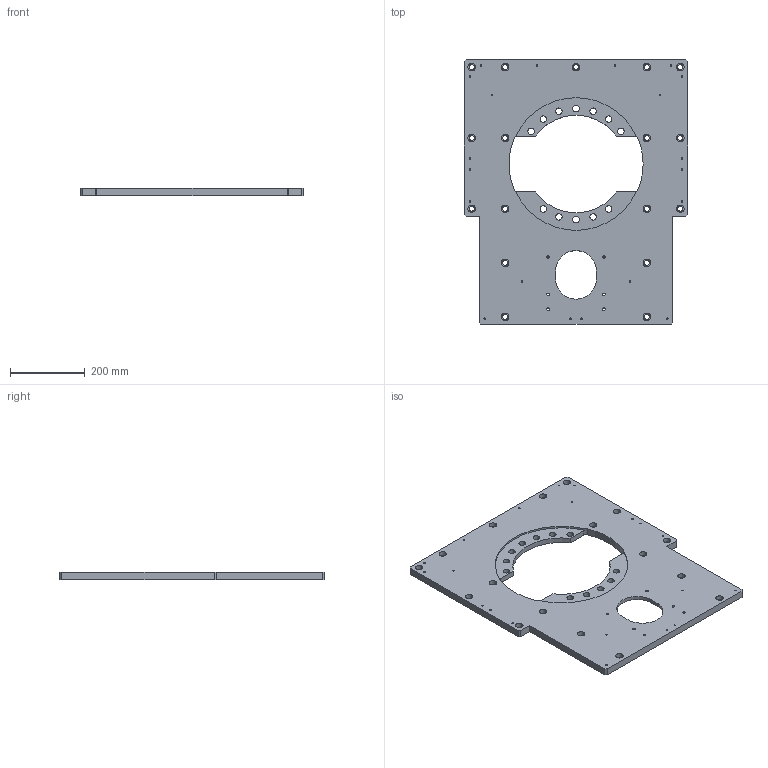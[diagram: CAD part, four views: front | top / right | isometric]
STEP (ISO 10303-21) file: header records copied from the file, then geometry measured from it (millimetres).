
FILE_DESCRIPTION (( 'STEP AP203' ), '1' );
FILE_NAME ('YWSD-2026-03-01-01=001 嘐隅假蚾啣.STEP', '2026-07-24T07:43:42', ( 'Windows 蚚誧' ), ( '' ), 'SwSTEP 2.0', 'SolidWorks 2024', '' );
FILE_SCHEMA (( 'CONFIG_CONTROL_DESIGN' ));
Length unit declared in the file: millimetre
Products named in the file (1): YWSD-2026-03-01-01=001 固定安装板
Bounding box: 600 x 710 x 20 mm (x, y, z)
Volume: 5904754.3 mm3; surface area: 750077.6 mm2
Topology: 1 solids, 1 shells, 243 faces, 633 edges, 392 vertices
Faces by surface type: cylinder 161, plane 46, cone 36
Entity records: 7546 total; most frequent: DIRECTION 1411, CARTESIAN_POINT 1233, ORIENTED_EDGE 1194, EDGE_CURVE 597, AXIS2_PLACEMENT_3D 570, VERTEX_POINT 392, EDGE_LOOP 357, CIRCLE 326
